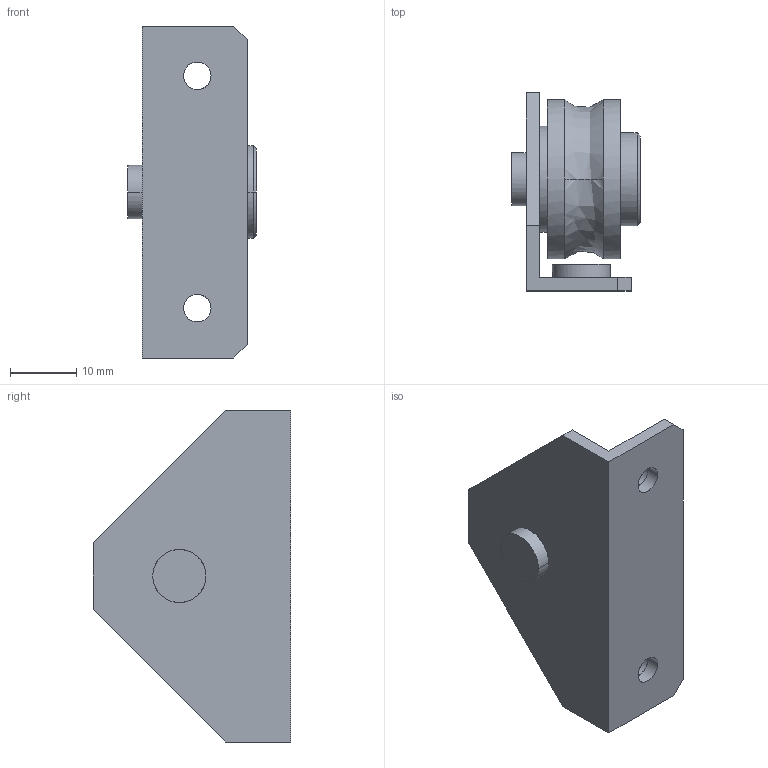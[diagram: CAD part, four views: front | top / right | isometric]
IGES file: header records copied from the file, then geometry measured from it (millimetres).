
Global section: file name: No Iges File Name specified; native system: AutoDesk Inventor R11.0; preprocessor: AutoDesk Inventor Iges Exporter R11.0; author: No Author specified; organization: No Organization specified; date: 20190426.192421; units: millimetre
Bounding box: 19.4 x 29.8 x 50 mm (x, y, z)
Surface area: 6205.6 mm2 (no closed solid volume)
Topology: 0 solids, 0 shells, 49 faces, 322 edges, 322 vertices
Faces by surface type: bspline 49
